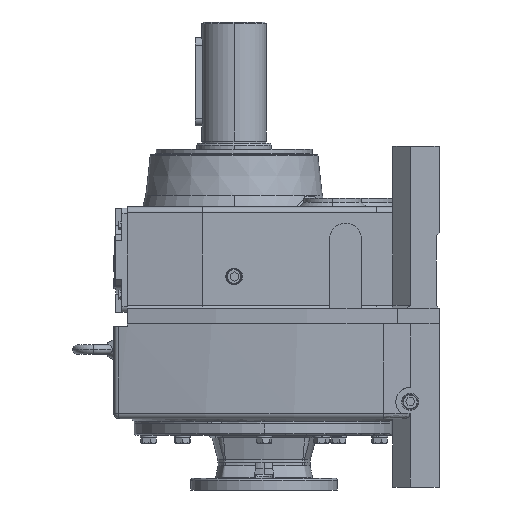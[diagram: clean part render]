
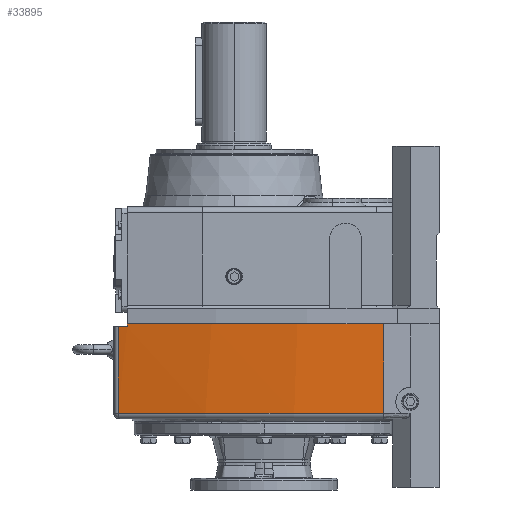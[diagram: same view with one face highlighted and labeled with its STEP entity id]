
A CAD part, left-side view. The second image highlights one B-rep face of the part: STEP entity #33895.
In plain terms, the highlighted cylindrical face has radius 1500 mm (diameter 3000 mm), a partial arc.
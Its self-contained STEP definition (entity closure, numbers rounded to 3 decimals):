
#2642 = EDGE_LOOP ( 'NONE', ( #22730, #22657, #22822, #22762, #22677, #22785 ) ) ;
#2731 = AXIS2_PLACEMENT_3D ( 'NONE', #27353, #27178, #27235 ) ;
#5299 = VERTEX_POINT ( 'NONE', #21181 ) ;
#5356 = VERTEX_POINT ( 'NONE', #20183 ) ;
#5650 = VERTEX_POINT ( 'NONE', #20206 ) ;
#5788 = EDGE_CURVE ( 'NONE', #30214, #30221, #23529, .T. ) ;
#5793 = EDGE_CURVE ( 'NONE', #5356, #30663, #23053, .T. ) ;
#5794 = EDGE_CURVE ( 'NONE', #30663, #5299, #33434, .T. ) ;
#6414 = AXIS2_PLACEMENT_3D ( 'NONE', #8889, #8611, #9235 ) ;
#6501 = CIRCLE ( 'NONE', #6414, 1500. ) ;
#8611 = DIRECTION ( 'NONE',  ( 0., 0., -1. ) ) ;
#8889 = CARTESIAN_POINT ( 'NONE',  ( 1233.2, -191.138, -288.5 ) ) ;
#9235 = DIRECTION ( 'NONE',  ( 1., 0., 0. ) ) ;
#11854 = VECTOR ( 'NONE', #27702, 1000. ) ;
#11919 = CIRCLE ( 'NONE', #2731, 1500. ) ;
#12870 = AXIS2_PLACEMENT_3D ( 'NONE', #18325, #18474, #18473 ) ;
#12975 = CARTESIAN_POINT ( 'NONE',  ( -218.874, 185., -448. ) ) ;
#13407 = DIRECTION ( 'NONE',  ( 0., 0., -1. ) ) ;
#13598 = DIRECTION ( 'NONE',  ( 0., 0., -1. ) ) ;
#13618 = CARTESIAN_POINT ( 'NONE',  ( -214.741, 200.612, -448. ) ) ;
#13619 = DIRECTION ( 'NONE',  ( 1., 0., 0. ) ) ;
#13622 = DIRECTION ( 'NONE',  ( 0., 0., 1. ) ) ;
#13661 = CARTESIAN_POINT ( 'NONE',  ( 1233.2, -191.138, -438. ) ) ;
#18325 = CARTESIAN_POINT ( 'NONE',  ( 1233.2, -191.138, -448. ) ) ;
#18473 = DIRECTION ( 'NONE',  ( 0., 1., 0. ) ) ;
#18474 = DIRECTION ( 'NONE',  ( 0., 0., 1. ) ) ;
#20183 = CARTESIAN_POINT ( 'NONE',  ( -214.741, 200.612, -288.5 ) ) ;
#20206 = CARTESIAN_POINT ( 'NONE',  ( -265.276, -258.733, -283.5 ) ) ;
#21181 = CARTESIAN_POINT ( 'NONE',  ( -265.276, -258.733, -438. ) ) ;
#22657 = ORIENTED_EDGE ( 'NONE', *, *, #23853, .T. ) ;
#22677 = ORIENTED_EDGE ( 'NONE', *, *, #34165, .T. ) ;
#22730 = ORIENTED_EDGE ( 'NONE', *, *, #5788, .T. ) ;
#22762 = ORIENTED_EDGE ( 'NONE', *, *, #5794, .T. ) ;
#22785 = ORIENTED_EDGE ( 'NONE', *, *, #34229, .F. ) ;
#22822 = ORIENTED_EDGE ( 'NONE', *, *, #5793, .T. ) ;
#23053 = LINE ( 'NONE', #13618, #33525 ) ;
#23529 = LINE ( 'NONE', #12975, #33510 ) ;
#23853 = EDGE_CURVE ( 'NONE', #30221, #5356, #6501, .T. ) ;
#25823 = CARTESIAN_POINT ( 'NONE',  ( -214.741, 200.612, -438. ) ) ;
#27178 = DIRECTION ( 'NONE',  ( 0., 0., 1. ) ) ;
#27202 = CARTESIAN_POINT ( 'NONE',  ( -265.276, -258.733, -448. ) ) ;
#27235 = DIRECTION ( 'NONE',  ( -1., 0., 0. ) ) ;
#27353 = CARTESIAN_POINT ( 'NONE',  ( 1233.2, -191.138, -283.5 ) ) ;
#27702 = DIRECTION ( 'NONE',  ( 0., 0., 1. ) ) ;
#28764 = CYLINDRICAL_SURFACE ( 'NONE', #12870, 1500. ) ;
#28771 = FACE_OUTER_BOUND ( 'NONE', #2642, .T. ) ;
#28963 = LINE ( 'NONE', #27202, #11854 ) ;
#30214 = VERTEX_POINT ( 'NONE', #31984 ) ;
#30221 = VERTEX_POINT ( 'NONE', #31359 ) ;
#30663 = VERTEX_POINT ( 'NONE', #25823 ) ;
#31359 = CARTESIAN_POINT ( 'NONE',  ( -218.874, 185., -288.5 ) ) ;
#31984 = CARTESIAN_POINT ( 'NONE',  ( -218.874, 185., -283.5 ) ) ;
#33434 = CIRCLE ( 'NONE', #33534, 1500. ) ;
#33510 = VECTOR ( 'NONE', #13407, 1000. ) ;
#33525 = VECTOR ( 'NONE', #13598, 1000. ) ;
#33534 = AXIS2_PLACEMENT_3D ( 'NONE', #13661, #13622, #13619 ) ;
#33895 = ADVANCED_FACE ( 'NONE', ( #28771 ), #28764, .T. ) ;
#34165 = EDGE_CURVE ( 'NONE', #5299, #5650, #28963, .T. ) ;
#34229 = EDGE_CURVE ( 'NONE', #30214, #5650, #11919, .T. ) ;
